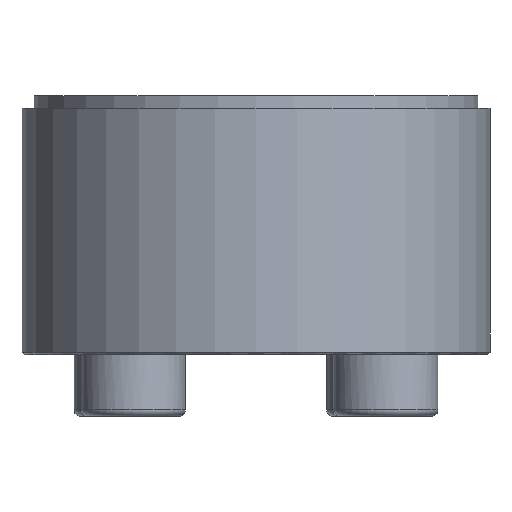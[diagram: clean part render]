
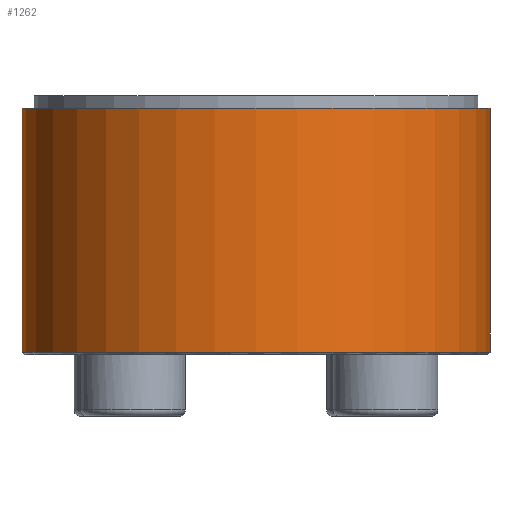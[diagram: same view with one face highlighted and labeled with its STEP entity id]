
A CAD part, front view. The second image highlights one B-rep face of the part: STEP entity #1262.
In plain terms, the highlighted cylindrical face has radius 19 mm (diameter 38 mm), a partial arc.
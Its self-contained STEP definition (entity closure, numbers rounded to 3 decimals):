
#17 = EDGE_CURVE ( 'NONE', #699, #160, #926, .T. ) ;
#52 = VERTEX_POINT ( 'NONE', #65 ) ;
#65 = CARTESIAN_POINT ( 'NONE',  ( 19., 0., -10.3 ) ) ;
#120 = DIRECTION ( 'NONE',  ( -1., 0., 0. ) ) ;
#126 = CARTESIAN_POINT ( 'NONE',  ( -19., 0., 9.5 ) ) ;
#127 = DIRECTION ( 'NONE',  ( 0., 0., 1. ) ) ;
#160 = VERTEX_POINT ( 'NONE', #126 ) ;
#212 = VECTOR ( 'NONE', #844, 1000. ) ;
#306 = EDGE_CURVE ( 'NONE', #160, #656, #381, .T. ) ;
#360 = ORIENTED_EDGE ( 'NONE', *, *, #397, .F. ) ;
#362 = AXIS2_PLACEMENT_3D ( 'NONE', #1768, #127, #120 ) ;
#381 = LINE ( 'NONE', #1651, #212 ) ;
#397 = EDGE_CURVE ( 'NONE', #699, #52, #536, .T. ) ;
#446 = CARTESIAN_POINT ( 'NONE',  ( 19., 0., 0. ) ) ;
#497 = VECTOR ( 'NONE', #754, 1000. ) ;
#536 = LINE ( 'NONE', #446, #497 ) ;
#631 = DIRECTION ( 'NONE',  ( 0., 0., -1. ) ) ;
#656 = VERTEX_POINT ( 'NONE', #1675 ) ;
#699 = VERTEX_POINT ( 'NONE', #1113 ) ;
#712 = DIRECTION ( 'NONE',  ( 0., 0., -1. ) ) ;
#722 = ORIENTED_EDGE ( 'NONE', *, *, #1587, .T. ) ;
#754 = DIRECTION ( 'NONE',  ( 0., 0., -1. ) ) ;
#785 = EDGE_LOOP ( 'NONE', ( #360, #1084, #1462, #722 ) ) ;
#844 = DIRECTION ( 'NONE',  ( 0., 0., -1. ) ) ;
#867 = AXIS2_PLACEMENT_3D ( 'NONE', #1714, #631, #1178 ) ;
#926 = CIRCLE ( 'NONE', #867, 19. ) ;
#1055 = CIRCLE ( 'NONE', #362, 19. ) ;
#1084 = ORIENTED_EDGE ( 'NONE', *, *, #17, .T. ) ;
#1113 = CARTESIAN_POINT ( 'NONE',  ( 19., 0., 9.5 ) ) ;
#1178 = DIRECTION ( 'NONE',  ( 1., 0., 0. ) ) ;
#1262 = ADVANCED_FACE ( 'NONE', ( #1789 ), #1417, .T. ) ;
#1417 = CYLINDRICAL_SURFACE ( 'NONE', #1719, 19. ) ;
#1462 = ORIENTED_EDGE ( 'NONE', *, *, #306, .T. ) ;
#1587 = EDGE_CURVE ( 'NONE', #656, #52, #1055, .T. ) ;
#1651 = CARTESIAN_POINT ( 'NONE',  ( -19., 0., 0. ) ) ;
#1668 = DIRECTION ( 'NONE',  ( -1., 0., 0. ) ) ;
#1675 = CARTESIAN_POINT ( 'NONE',  ( -19., 0., -10.3 ) ) ;
#1680 = CARTESIAN_POINT ( 'NONE',  ( 0., 0., 0. ) ) ;
#1714 = CARTESIAN_POINT ( 'NONE',  ( 0., 0., 9.5 ) ) ;
#1719 = AXIS2_PLACEMENT_3D ( 'NONE', #1680, #712, #1668 ) ;
#1768 = CARTESIAN_POINT ( 'NONE',  ( 0., 0., -10.3 ) ) ;
#1789 = FACE_OUTER_BOUND ( 'NONE', #785, .T. ) ;
